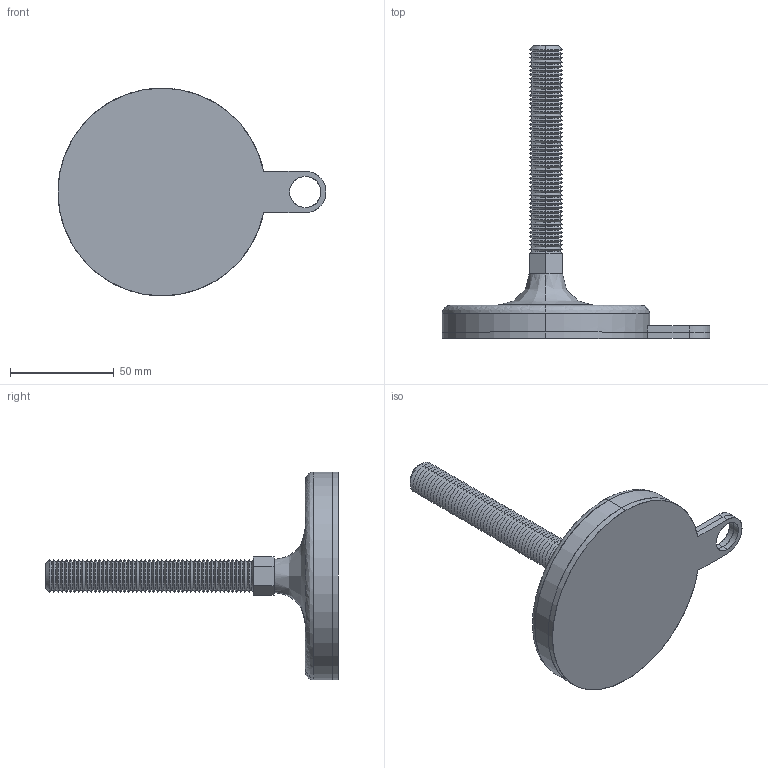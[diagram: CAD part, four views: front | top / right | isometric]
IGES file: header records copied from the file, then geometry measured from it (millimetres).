
Start section: SolidWorks IGES file using analytic representation for surfaces
Global section: file name: C:\Users\liam_\OneDrive\Documents\WORK\Work for WixRoyd\Job Files\J-00026 - Matt Davis CAD - 20191124\04. CAD Drawings\Wixroyd20191124\34704_v2\34704_v2_20191128_IGES\34704.W1605.igs; native system: SolidWorks 2017; preprocessor: SolidWorks 2017; author: liam_; date: 191128.202556; units: millimetre
Bounding box: 129 x 141 x 100 mm (x, y, z)
Surface area: 47902.8 mm2 (no closed solid volume)
Topology: 0 solids, 0 shells, 241 faces, 1596 edges, 1596 vertices
Faces by surface type: revolution 209, bspline 32
